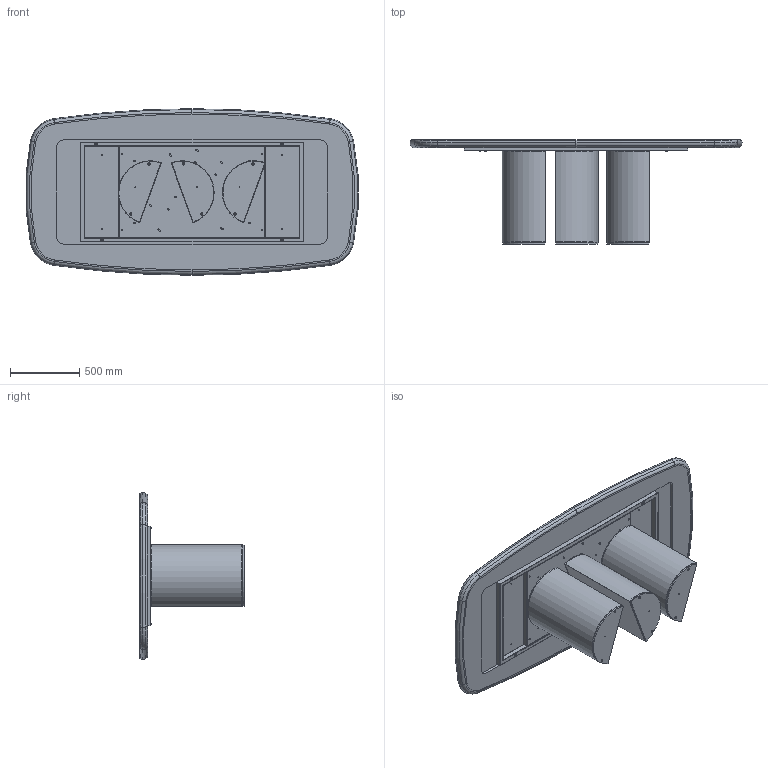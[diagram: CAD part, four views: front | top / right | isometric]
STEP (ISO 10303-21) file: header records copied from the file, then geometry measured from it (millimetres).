
FILE_DESCRIPTION (( 'STEP AP203' ), '1' );
FILE_NAME ('PL22K_Plai_240x120_King.STEP', '2024-08-02T06:32:09', ( '' ), ( '' ), 'SwSTEP 2.0', 'SolidWorks 2022', '' );
FILE_SCHEMA (( 'CONFIG_CONTROL_DESIGN' ));
Length unit declared in the file: millimetre
Products named in the file (15): PLA000000BAS-00-PLAI BASE GREZZA; M8xXXmm_M8x55mm; K50-00-PIANO SOLO CERAMICA 236,7x116,7cm sag; TTAV0601_01-00-STRUTTURA X TAVOLI PLAI ONDA NOA 240; Assieme Basamento PLAI_Basamento per tavoli; W50-01-PIANO KING BORDO 240x120 SAGOMATO LACCATO; PL22K_Plai_240x120_King; COLLO TELAIO UNIVERSALE TTAV0601 CON FERRAMENTA_FERRAMENTA MTG TOP LEGNO-MARMO-KING; M8xXXmm_hex_M8X20mm; PLA000000ZOC-01-PLAI ZOCCOLO DELLA BASE; TTAV0601-00-TELAIO X TAVOLI PLAI ONDA NOA 240cm_TTAV06; M8xXXmm_hex_M8X60mm; TTAV0601_02-00-VASSOIO TAVOLI PLAI ONDA NOA 240; ASSIEME PIANO+CERAMICA 240X120; rondella M8_8X24
Assembly tree (22 placements, depth 4):
  PL22K_Plai_240x120_King
    COLLO TELAIO UNIVERSALE TTAV0601 CON FERRAMENTA_FERRAMENTA MTG TOP LEGNO-MARMO-KING
      TTAV0601-00-TELAIO X TAVOLI PLAI ONDA NOA 240cm_TTAV06
        TTAV0601_02-00-VASSOIO TAVOLI PLAI ONDA NOA 240
        TTAV0601_01-00-STRUTTURA X TAVOLI PLAI ONDA NOA 240
      rondella M8_8X24  x4
      M8xXXmm_M8x55mm  x4
    Assieme Basamento PLAI_Basamento per tavoli  x3
      PLA000000BAS-00-PLAI BASE GREZZA
      PLA000000ZOC-01-PLAI ZOCCOLO DELLA BASE
      M8xXXmm_hex_M8X60mm
      M8xXXmm_hex_M8X20mm
    ASSIEME PIANO+CERAMICA 240X120
      K50-00-PIANO SOLO CERAMICA 236,7x116,7cm sag
      W50-01-PIANO KING BORDO 240x120 SAGOMATO LACCATO
Bounding box: 2391.93 x 750 x 1200 mm (x, y, z)
Volume: 129001045.8 mm3; surface area: 19458436 mm2
Topology: 33 solids, 33 shells, 1047 faces, 2394 edges, 1394 vertices
Faces by surface type: plane 427, cylinder 316, cone 186, torus 110, sphere 8
Entity records: 20878 total; most frequent: DIRECTION 3585, CARTESIAN_POINT 3252, ORIENTED_EDGE 3096, EDGE_CURVE 1548, AXIS2_PLACEMENT_3D 1373, VERTEX_POINT 922, VECTOR 839, LINE 839
